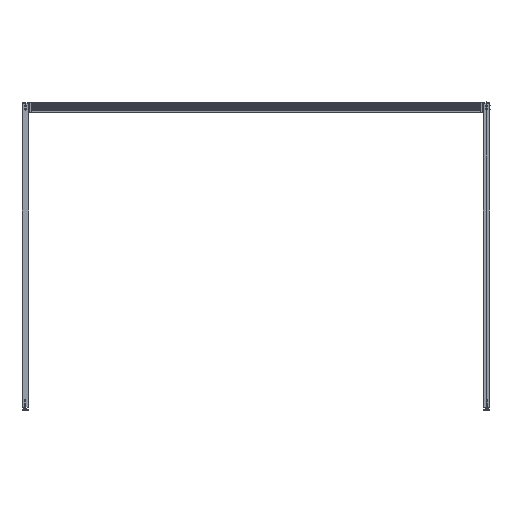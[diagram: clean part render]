
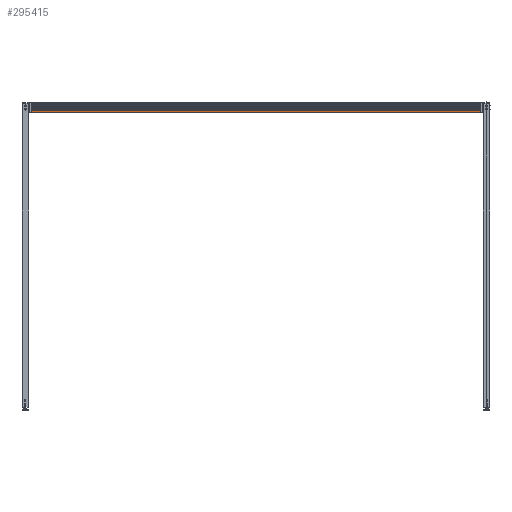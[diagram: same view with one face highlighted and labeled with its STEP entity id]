
A CAD part, front view. The second image highlights one B-rep face of the part: STEP entity #295415.
In plain terms, the highlighted planar face has unit normal (0, -1, 0).
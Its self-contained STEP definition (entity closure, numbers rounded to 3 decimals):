
#27714 = CARTESIAN_POINT ( 'NONE',  ( 8588., -7886.5, 451.784 ) ) ;
#55109 = CARTESIAN_POINT ( 'NONE',  ( 8588., -7886.5, 371.646 ) ) ;
#59084 = VERTEX_POINT ( 'NONE', #258829 ) ;
#68952 = CARTESIAN_POINT ( 'NONE',  ( 4492., -7886.5, 455.646 ) ) ;
#100768 = EDGE_CURVE ( 'NONE', #321019, #200421, #303974, .T. ) ;
#105552 = ORIENTED_EDGE ( 'NONE', *, *, #316741, .F. ) ;
#139736 = VECTOR ( 'NONE', #458337, 1000. ) ;
#142334 = FACE_OUTER_BOUND ( 'NONE', #443371, .T. ) ;
#147324 = CARTESIAN_POINT ( 'NONE',  ( 6540., -7886.5, 413.646 ) ) ;
#180345 = CARTESIAN_POINT ( 'NONE',  ( 4492., -7886.5, 451.784 ) ) ;
#182806 = DIRECTION ( 'NONE',  ( 1., 0., 0. ) ) ;
#200421 = VERTEX_POINT ( 'NONE', #68952 ) ;
#211868 = LINE ( 'NONE', #55109, #391784 ) ;
#223287 = DIRECTION ( 'NONE',  ( 0., 0., -1. ) ) ;
#228203 = CARTESIAN_POINT ( 'NONE',  ( 8588., -7886.5, 455.646 ) ) ;
#228210 = DIRECTION ( 'NONE',  ( 0., -1., 0. ) ) ;
#242950 = ORIENTED_EDGE ( 'NONE', *, *, #100768, .T. ) ;
#247973 = LINE ( 'NONE', #27714, #291661 ) ;
#258829 = CARTESIAN_POINT ( 'NONE',  ( 4492., -7886.5, 371.646 ) ) ;
#290830 = DIRECTION ( 'NONE',  ( 0., 0., 1. ) ) ;
#291661 = VECTOR ( 'NONE', #290830, 1000. ) ;
#295415 = ADVANCED_FACE ( 'NONE', ( #142334 ), #296562, .T. ) ;
#296562 = PLANE ( 'NONE',  #448480 ) ;
#303974 = LINE ( 'NONE', #228203, #139736 ) ;
#311534 = ORIENTED_EDGE ( 'NONE', *, *, #402244, .T. ) ;
#316741 = EDGE_CURVE ( 'NONE', #323061, #59084, #211868, .T. ) ;
#321019 = VERTEX_POINT ( 'NONE', #400662 ) ;
#323061 = VERTEX_POINT ( 'NONE', #417865 ) ;
#362186 = VECTOR ( 'NONE', #223287, 1000. ) ;
#377908 = EDGE_CURVE ( 'NONE', #323061, #321019, #247973, .T. ) ;
#391784 = VECTOR ( 'NONE', #479911, 1000. ) ;
#400662 = CARTESIAN_POINT ( 'NONE',  ( 8588., -7886.5, 455.646 ) ) ;
#402244 = EDGE_CURVE ( 'NONE', #200421, #59084, #498832, .T. ) ;
#417865 = CARTESIAN_POINT ( 'NONE',  ( 8588., -7886.5, 371.646 ) ) ;
#443371 = EDGE_LOOP ( 'NONE', ( #105552, #456382, #242950, #311534 ) ) ;
#448480 = AXIS2_PLACEMENT_3D ( 'NONE', #147324, #228210, #182806 ) ;
#456382 = ORIENTED_EDGE ( 'NONE', *, *, #377908, .T. ) ;
#458337 = DIRECTION ( 'NONE',  ( -1., 0., 0. ) ) ;
#479911 = DIRECTION ( 'NONE',  ( -1., 0., 0. ) ) ;
#498832 = LINE ( 'NONE', #180345, #362186 ) ;
